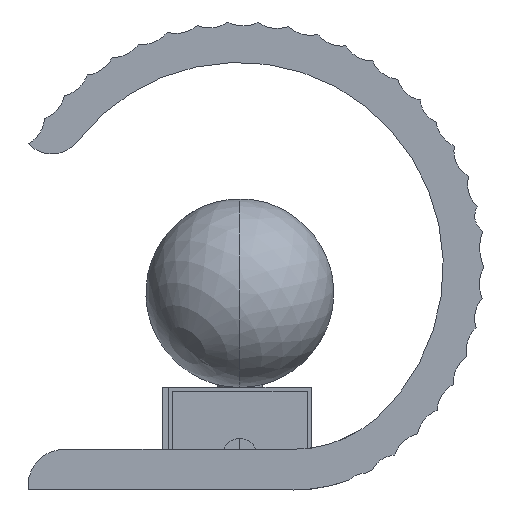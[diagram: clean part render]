
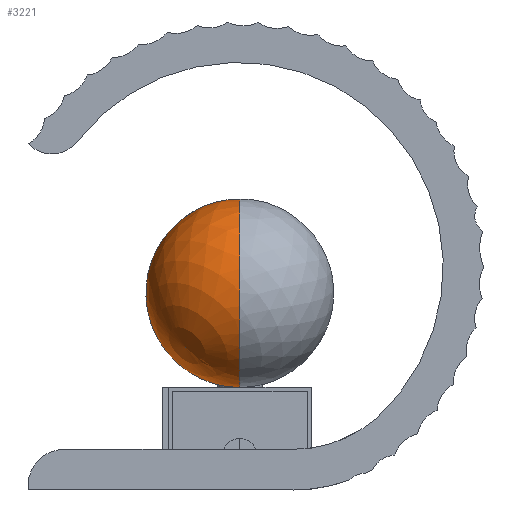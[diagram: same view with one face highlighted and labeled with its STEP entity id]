
A CAD part, left-side view. The second image highlights one B-rep face of the part: STEP entity #3221.
In plain terms, the highlighted spherical face has radius 23.058 mm.
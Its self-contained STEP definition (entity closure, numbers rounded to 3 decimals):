
#26=SPHERICAL_SURFACE('',#3591,23.058);
#32=B_SPLINE_CURVE_WITH_KNOTS('',3,(#5462,#5463,#5464,#5465,#5466,#5467,
#5468,#5469),.UNSPECIFIED.,.F.,.F.,(4,1,1,1,1,4),(0.,0.2,0.4,0.6,0.8,1.),
 .UNSPECIFIED.);
#33=B_SPLINE_CURVE_WITH_KNOTS('',3,(#5472,#5473,#5474,#5475,#5476,#5477),
 .UNSPECIFIED.,.F.,.F.,(4,1,1,4),(0.,0.333,0.667,
1.),.UNSPECIFIED.);
#34=B_SPLINE_CURVE_WITH_KNOTS('',3,(#5479,#5480,#5481,#5482,#5483,#5484),
 .UNSPECIFIED.,.F.,.F.,(4,1,1,4),(0.295,0.333,0.667,
1.),.UNSPECIFIED.);
#35=B_SPLINE_CURVE_WITH_KNOTS('',3,(#5485,#5486,#5487,#5488),
 .UNSPECIFIED.,.F.,.F.,(4,4),(0.,0.295),.UNSPECIFIED.);
#249=CIRCLE('',#3592,23.058);
#524=FACE_OUTER_BOUND('',#741,.T.);
#741=EDGE_LOOP('',(#2714,#2715,#2716,#2717,#2718,#2719));
#1520=VERTEX_POINT('',#5427);
#1521=VERTEX_POINT('',#5433);
#1522=VERTEX_POINT('',#5471);
#1523=VERTEX_POINT('',#5478);
#1524=VERTEX_POINT('',#5490);
#1924=EDGE_CURVE('',#1520,#1521,#32,.T.);
#1925=EDGE_CURVE('',#1522,#1520,#33,.T.);
#1926=EDGE_CURVE('',#1523,#1522,#34,.T.);
#1927=EDGE_CURVE('',#1521,#1523,#35,.T.);
#1928=EDGE_CURVE('',#1523,#1524,#249,.T.);
#2714=ORIENTED_EDGE('',*,*,#1927,.T.);
#2715=ORIENTED_EDGE('',*,*,#1928,.T.);
#2716=ORIENTED_EDGE('',*,*,#1928,.F.);
#2717=ORIENTED_EDGE('',*,*,#1926,.T.);
#2718=ORIENTED_EDGE('',*,*,#1925,.T.);
#2719=ORIENTED_EDGE('',*,*,#1924,.T.);
#3221=ADVANCED_FACE('',(#524),#26,.T.);
#3591=AXIS2_PLACEMENT_3D('',#5489,#4456,#4457);
#3592=AXIS2_PLACEMENT_3D('',#5491,#4458,#4459);
#4456=DIRECTION('center_axis',(0.577,0.577,0.577));
#4457=DIRECTION('ref_axis',(-0.707,0.,0.707));
#4458=DIRECTION('center_axis',(-0.408,0.816,-0.408));
#4459=DIRECTION('ref_axis',(0.707,0.,-0.707));
#5427=CARTESIAN_POINT('',(0.,-77.549,71.39));
#5433=CARTESIAN_POINT('',(0.,-77.549,25.274));
#5462=CARTESIAN_POINT('Ctrl Pts',(0.,-77.549,71.39));
#5463=CARTESIAN_POINT('Ctrl Pts',(-4.954,-77.549,71.561));
#5464=CARTESIAN_POINT('Ctrl Pts',(-14.416,-77.549,68.174));
#5465=CARTESIAN_POINT('Ctrl Pts',(-23.433,-77.549,55.969));
#5466=CARTESIAN_POINT('Ctrl Pts',(-23.433,-77.549,40.695));
#5467=CARTESIAN_POINT('Ctrl Pts',(-14.416,-77.549,28.49));
#5468=CARTESIAN_POINT('Ctrl Pts',(-4.954,-77.549,25.103));
#5469=CARTESIAN_POINT('Ctrl Pts',(0.,-77.549,
25.274));
#5471=CARTESIAN_POINT('',(0.,-100.607,48.332));
#5472=CARTESIAN_POINT('Ctrl Pts',(0.,-100.607,48.332));
#5473=CARTESIAN_POINT('Ctrl Pts',(0.,-100.721,52.439));
#5474=CARTESIAN_POINT('Ctrl Pts',(0.,-98.41,60.376));
#5475=CARTESIAN_POINT('Ctrl Pts',(0.,-89.593,69.193));
#5476=CARTESIAN_POINT('Ctrl Pts',(0.,-81.656,71.504));
#5477=CARTESIAN_POINT('Ctrl Pts',(0.,-77.549,71.39));
#5478=CARTESIAN_POINT('',(0.,-87.868,27.693));
#5479=CARTESIAN_POINT('Ctrl Pts',(0.,-87.868,
27.693));
#5480=CARTESIAN_POINT('Ctrl Pts',(0.,-88.278,
27.904));
#5481=CARTESIAN_POINT('Ctrl Pts',(0.,-92.194,
30.073));
#5482=CARTESIAN_POINT('Ctrl Pts',(0.,-98.41,
36.288));
#5483=CARTESIAN_POINT('Ctrl Pts',(0.,-100.721,
44.225));
#5484=CARTESIAN_POINT('Ctrl Pts',(0.,-100.607,
48.332));
#5485=CARTESIAN_POINT('Ctrl Pts',(0.,-77.549,
25.274));
#5486=CARTESIAN_POINT('Ctrl Pts',(0.,-81.184,
25.173));
#5487=CARTESIAN_POINT('Ctrl Pts',(0.,-84.711,
26.067));
#5488=CARTESIAN_POINT('Ctrl Pts',(0.,-87.868,
27.693));
#5489=CARTESIAN_POINT('Origin',(0.,-77.549,
48.332));
#5490=CARTESIAN_POINT('',(-13.313,-90.862,35.019));
#5491=CARTESIAN_POINT('Origin',(0.,-77.549,
48.332));
